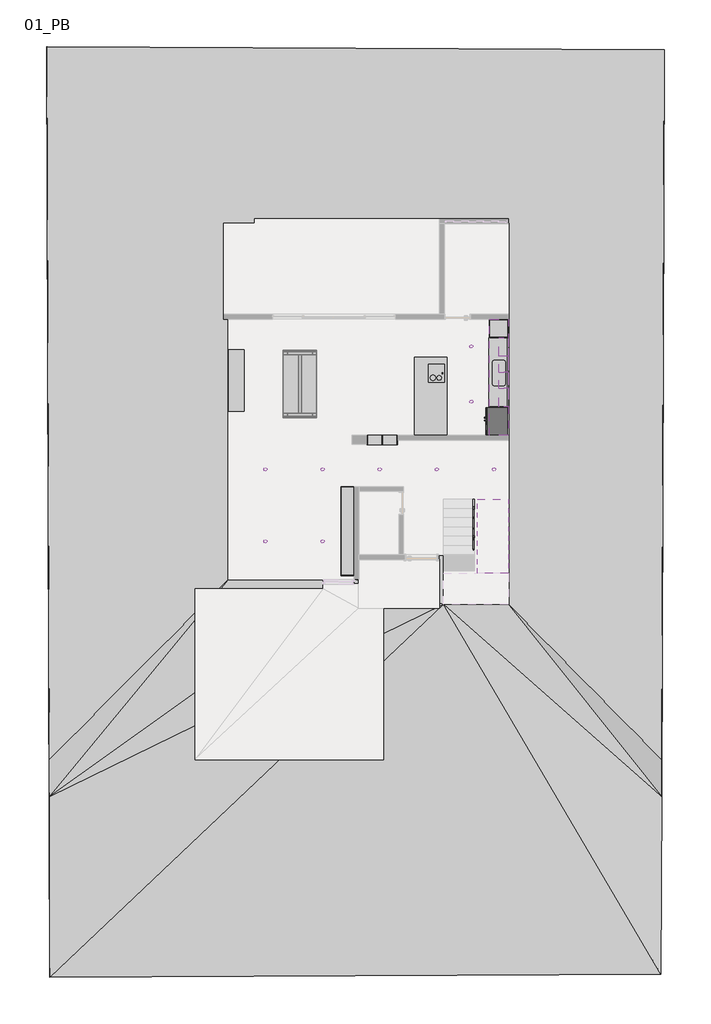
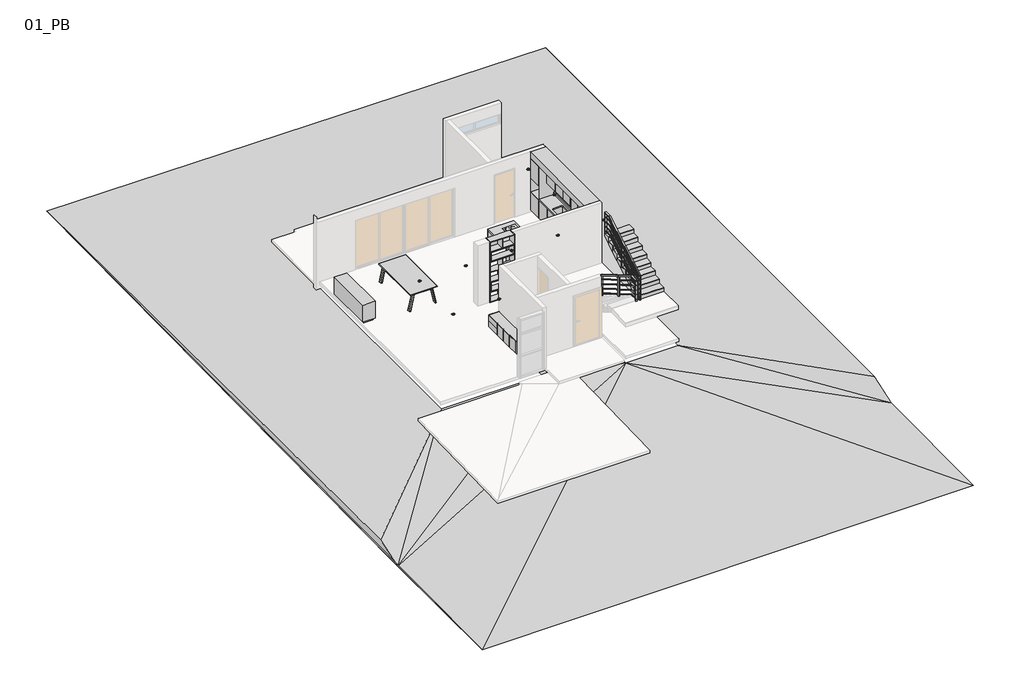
# One storey, part 2 of 2: 16 furniture elements, 9 light fixtures, 3 proxies, 1 railing, 1 stair flight.
"""IFC4 building model written with IfcOpenShell, lengths in millimetres."""

from ifc_helpers import new_model, si_unit, frame, origin, place, context, project, spatial, polyline, circle_curve, ellipse_curve, outline, extrude, faceted_brep, triangles, transform, mapped, element, save
from ifc_brep_helpers import plane_surface, cylinder_surface, advanced_brep
from components import specialty_equipment_7a79cb5c, blanco_40978c59, furniture_4d22b9ae, furniture_74854ae5, furniture_a5ee66b8, furniture_1_0d0d19ef, furniture_52_cm_ab3bc9a9, furniture_52_cm_2eac06b0, furniture_60_4b7d7167, furniture_60_2606760a, furniture_60_cm_2a39175a, barra_cocina_2500_105_cm_d31bc55a, base_1_puerta_60_9c87a0a0, base_1m_105_cm_66b4baac, counter_top_w_sink_hole_600mm_depth_3cb56055, enscape_assetdefinition_mesa_mod_comedor_enscape_ff12c231, light_fixture_93f22e3d

model = new_model("IFC4")

# Units and contexts
model_context = context("Model", 3, world=origin())
ifc_project = project(units=[si_unit("LENGTHUNIT", "METRE", prefix="MILLI")], contexts=[model_context])

# Site, building, storey
site = spatial("IfcSite", under=ifc_project)
building = spatial("IfcBuilding", under=site)
storey = spatial("IfcBuildingStorey", under=building, Name="01_PB", Elevation=300.0)

# Proxies
placement = place(None, origin())
element("IfcBuildingElementProxy", 1, Name="Building Element Proxy", at=placement, inside=storey, context=model_context, shape_type="Tessellation", body=[
    triangles([(-1931.077478, 17108.8882507, 0.0), (-1826.3813976, -13159.7618591, -400.0000031), (18057.4152374, -13061.3271698, -400.0000031), (18091.5340851, -7278.0144791, -400.0000031), (18168.3724182, 17010.4535614, 0.0), (3991.5345589, 8241.9852905, 0.0), (10570.8233734, 8241.9852905, 0.0), (11011.534845, 8241.9852905, 0.0), (11011.534845, 8750.618779, 0.0), (11011.534845, 11341.9856049, 0.0), (13091.5346283, 11341.9856049, 0.0), (13091.5346283, 11151.1844604, 0.0), (13091.5346283, -1018.0146784, 0.0), (10991.534903, -1018.0146784, 0.0), (10991.534903, 581.9853702, 0.0), (8071.5346481, 581.9853702, 0.0), (8071.5346481, -218.0146359, 0.0), (3991.5345589, -218.0146359, 0.0), (3991.5345589, 648.7104761, 0.0), (10851.5341461, 8401.985408, 0.0), (10709.4567719, 8401.985408, 0.0), (3981.5345879, 8401.985408, 0.0), (3981.5345879, 11351.9849945, 0.0), (10851.5341461, 11351.9849945, 0.0), (10851.5341461, 8565.9597015, 0.0), (-1836.9207253, -6078.0144699, 0.0), (-1836.9207253, -7278.0144791, -400.0000031), (18091.5340851, -6078.0144699, 0.0)], [[26, 27, 18], [2, 27, 1], [14, 17, 27], [27, 26, 1], [17, 18, 27], [18, 19, 26], [27, 2, 14], [26, 19, 6], [1, 22, 23], [22, 1, 6], [22, 7, 21], [24, 1, 23], [20, 21, 7], [20, 7, 8], [7, 22, 6], [1, 26, 6], [16, 17, 15], [8, 25, 20], [4, 13, 14], [28, 13, 4], [4, 5, 28], [4, 14, 3], [14, 2, 3], [12, 13, 28], [25, 9, 24], [25, 8, 9], [24, 9, 10], [11, 5, 10], [5, 11, 12], [10, 5, 24], [28, 5, 12], [24, 5, 1], [15, 17, 14]], closed=False),
])
specialty_equipment_shape = specialty_equipment_7a79cb5c(model_context)
element("IfcBuildingElementProxy", 2, Name="HAFELE Kitchen Induction Hob Plus+LONGBOTTOM : LONGBOTTOM_538.46.021", ObjectType="HAFELE Kitchen Induction Hob Plus+LONGBOTTOM : LONGBOTTOM_538.46.021", at=placement, inside=storey, context=model_context, shape_type="MappedRepresentation", body=[
    mapped(specialty_equipment_shape, transform((10495.041858, 6484.7195323, 1117.0), x_axis=(0.0, 1.0, 0.0), y_axis=(-1.0, 0.0, 0.0), z_axis=(0.0, 0.0, 1.0))),
])
blanco_shape = blanco_40978c59(model_context)
element("IfcBuildingElementProxy", 3, Name="Frigorífico Side by Side : Blanco", ObjectType="Frigorífico Side by Side : Blanco", at=placement, inside=storey, context=model_context, shape_type="MappedRepresentation", body=[
    mapped(blanco_shape, transform((13071.5346352, 4921.9853574, 300.0), x_axis=(0.0, -1.0, 0.0), y_axis=(1.0, 0.0, 0.0), z_axis=(0.0, 0.0, 1.0))),
])

# Furniture
furniture_shape = furniture_4d22b9ae(model_context)
element("IfcFurniture", 4, ObjectType="Muebles de obra 1 : Muebles de obra 1", at=placement, inside=storey, context=model_context, shape_type="MappedRepresentation", body=[
    mapped(furniture_shape, transform((0.0, 0.0, 0.0), x_axis=(1.0, 0.0, 0.0), y_axis=(0.0, 1.0, 0.0), z_axis=(0.0, 0.0, 1.0))),
])
furniture_2_shape = furniture_74854ae5(model_context)
element("IfcFurniture", 5, ObjectType="MUEBLES FLOTANTE SALA 1 3000 : MUEBLES FLOTANTE SALA 1 3000", at=placement, inside=storey, context=model_context, shape_type="MappedRepresentation", body=[
    mapped(furniture_2_shape, transform((8071.5346352, 1351.9853574, 300.0), x_axis=(0.0, -1.0, 0.0), y_axis=(1.0, 0.0, 0.0), z_axis=(0.0, 0.0, 1.0))),
])
furniture_3_shape = furniture_a5ee66b8(model_context)
element("IfcFurniture", 6, ObjectType="BUFETERA-1 : BUFETERA-50x80x207 cm", at=placement, inside=storey, context=model_context, shape_type="MappedRepresentation", body=[
    mapped(furniture_3_shape, transform((3991.5346352, 6241.9853574, 300.0), x_axis=(0.0, 1.0, 0.0), y_axis=(-1.0, 0.0, 0.0), z_axis=(0.0, 0.0, 1.0))),
])
furniture_1_shape = furniture_1_0d0d19ef(model_context)
element("IfcFurniture", 7, ObjectType="MUEBLE ACCESO 1.00X0.30 : 1", at=placement, inside=storey, context=model_context, shape_type="MappedRepresentation", body=[
    mapped(furniture_1_shape, transform((8946.8343088, 4815.8304592, 300.0), x_axis=(1.0, 0.0, 0.0), y_axis=(0.0, 1.0, 0.0), z_axis=(0.0, 0.0, 1.0))),
])
furniture_52_cm_shape = furniture_52_cm_ab3bc9a9(model_context)
element("IfcFurniture", 8, ObjectType="Mueble superior 1 puertas : 52 CM", at=placement, inside=storey, context=model_context, shape_type="MappedRepresentation", body=[
    mapped(furniture_52_cm_shape, transform((13171.5346352, 6659.4853574, 200.0), x_axis=(0.0, 1.0, 0.0), y_axis=(-1.0, 0.0, 0.0), z_axis=(0.0, 0.0, 1.0))),
])
furniture_52_cm_2_shape = furniture_52_cm_2eac06b0(model_context)
element("IfcFurniture", 9, ObjectType="Mueble superior 1 puertas : 52 CM", at=placement, inside=storey, context=model_context, shape_type="MappedRepresentation", body=[
    mapped(furniture_52_cm_2_shape, transform((13171.5346352, 6382.4853574, 200.0), x_axis=(0.0, -1.0, 0.0), y_axis=(1.0, 0.0, 0.0), z_axis=(0.0, 0.0, 1.0))),
])
furniture_60_shape = furniture_60_4b7d7167(model_context)
element("IfcFurniture", 10, ObjectType="MUEBLE ALTA PARA HORNO : 60", at=placement, inside=storey, context=model_context, shape_type="MappedRepresentation", body=[
    mapped(furniture_60_shape, transform((13091.5346352, 7986.6856839, 300.0), x_axis=(0.0, -1.0, 0.0), y_axis=(1.0, 0.0, 0.0), z_axis=(0.0, 0.0, 1.0))),
])
furniture_60_2_shape = furniture_60_2606760a(model_context)
element("IfcFurniture", 11, ObjectType="MUEBLE LATERAL Y SUP REFRI : 60", at=placement, inside=storey, context=model_context, shape_type="MappedRepresentation", body=[
    mapped(furniture_60_2_shape, transform((13091.5346352, 4971.6856839, 300.0), x_axis=(0.0, -1.0, 0.0), y_axis=(1.0, 0.0, 0.0), z_axis=(0.0, 0.0, 1.0))),
])
furniture_60_cm_shape = furniture_60_cm_2a39175a(model_context)
element("IfcFurniture", 12, ObjectType="Mueble superior 1 puertas : 60 CM", at=placement, inside=storey, context=model_context, shape_type="MappedRepresentation", body=[
    mapped(furniture_60_cm_shape, transform((13171.5346352, 7215.9853574, 200.0), x_axis=(0.0, 1.0, 0.0), y_axis=(-1.0, 0.0, 0.0), z_axis=(0.0, 0.0, 1.0))),
])
element("IfcFurniture", 13, ObjectType="Mueble superior 1 puertas : 60 CM", at=placement, inside=storey, context=model_context, shape_type="MappedRepresentation", body=[
    mapped(furniture_60_cm_shape, transform((13171.5346352, 5567.9853574, 200.0), x_axis=(0.0, 1.0, 0.0), y_axis=(-1.0, 0.0, 0.0), z_axis=(0.0, 0.0, 1.0))),
])
barra_cocina_2500_105_cm_shape = barra_cocina_2500_105_cm_d31bc55a(model_context)
element("IfcFurniture", 14, ObjectType="BARRA COCINA 2500 : 105 CM", at=placement, inside=storey, context=model_context, shape_type="MappedRepresentation", body=[
    mapped(barra_cocina_2500_105_cm_shape, transform((11233.4825254, 5756.6856839, 300.0), x_axis=(0.0, -1.0, 0.0), y_axis=(1.0, 0.0, 0.0), z_axis=(0.0, 0.0, 1.0))),
])
base_1_puerta_60_shape = base_1_puerta_60_9c87a0a0(model_context)
element("IfcFurniture", 15, ObjectType="Base 1 puerta : 60", at=placement, inside=storey, context=model_context, shape_type="MappedRepresentation", body=[
    mapped(base_1_puerta_60_shape, transform((13091.5346352, 7386.6856839, 300.0), x_axis=(0.0, -1.0, 0.0), y_axis=(1.0, 0.0, 0.0), z_axis=(0.0, 0.0, 1.0))),
])
element("IfcFurniture", 16, ObjectType="Base 1 puerta : 60", at=placement, inside=storey, context=model_context, shape_type="MappedRepresentation", body=[
    mapped(base_1_puerta_60_shape, transform((13091.5346352, 5736.6856839, 300.0), x_axis=(0.0, -1.0, 0.0), y_axis=(1.0, 0.0, 0.0), z_axis=(0.0, 0.0, 1.0))),
])
base_1m_105_cm_shape = base_1m_105_cm_66b4baac(model_context)
element("IfcFurniture", 17, ObjectType="Base 1m : 105 CM", at=placement, inside=storey, context=model_context, shape_type="MappedRepresentation", body=[
    mapped(base_1m_105_cm_shape, transform((13091.5346352, 6561.6856839, 300.0), x_axis=(0.0, -1.0, 0.0), y_axis=(1.0, 0.0, 0.0), z_axis=(0.0, 0.0, 1.0))),
])
counter_top_w_sink_hole_600mm_depth_shape = counter_top_w_sink_hole_600mm_depth_3cb56055(model_context)
element("IfcFurniture", 18, ObjectType="Counter Top w Sink Hole : 600mm Depth", at=placement, inside=storey, context=model_context, shape_type="MappedRepresentation", body=[
    mapped(counter_top_w_sink_hole_600mm_depth_shape, transform((13091.5346352, 6441.5230624, 310.0), x_axis=(0.0, -1.0, 0.0), y_axis=(1.0, 0.0, 0.0), z_axis=(0.0, 0.0, 1.0))),
])
enscape_assetdefinition_mesa_mod_comedor_enscape_shape = enscape_assetdefinition_mesa_mod_comedor_enscape_ff12c231(model_context)
element("IfcFurniture", 19, ObjectType="Enscape AssetDefinition - MESA MOD COMEDOR : Enscape AssetDefinition - MESA MOD COMEDOR", at=placement, inside=storey, context=model_context, shape_type="MappedRepresentation", body=[
    mapped(enscape_assetdefinition_mesa_mod_comedor_enscape_shape, transform((5771.5346352, 5081.9853574, 300.0), x_axis=(1.0, 0.0, 0.0), y_axis=(0.0, 1.0, 0.0), z_axis=(0.0, 0.0, 1.0))),
])

# Light fixtures
light_fixture_shape = light_fixture_93f22e3d(model_context)
element("IfcLightFixture", 20, ObjectType="TECNOLINE-LÁMPARA DE INTERIOR-DOWNLIGHT EMPOTRADA : TECNOLINE-LÁMPARA DE INTERIOR-DOWNLIGHT EMPOTRADA", at=placement, inside=storey, context=model_context, shape_type="MappedRepresentation", body=[
    mapped(light_fixture_shape, transform((7051.5346352, 1021.9853574, 2870.0), x_axis=(1.0, 0.0, 0.0), y_axis=(0.0, -1.0, 0.0), z_axis=(0.0, 0.0, -1.0))),
])
element("IfcLightFixture", 21, ObjectType="TECNOLINE-LÁMPARA DE INTERIOR-DOWNLIGHT EMPOTRADA : TECNOLINE-LÁMPARA DE INTERIOR-DOWNLIGHT EMPOTRADA", at=placement, inside=storey, context=model_context, shape_type="MappedRepresentation", body=[
    mapped(light_fixture_shape, transform((5191.5346352, 1021.9853574, 2870.0), x_axis=(1.0, 0.0, 0.0), y_axis=(0.0, -1.0, 0.0), z_axis=(0.0, 0.0, -1.0))),
])
element("IfcLightFixture", 22, ObjectType="TECNOLINE-LÁMPARA DE INTERIOR-DOWNLIGHT EMPOTRADA : TECNOLINE-LÁMPARA DE INTERIOR-DOWNLIGHT EMPOTRADA", at=placement, inside=storey, context=model_context, shape_type="MappedRepresentation", body=[
    mapped(light_fixture_shape, transform((7051.5346352, 3361.9853574, 2870.0), x_axis=(1.0, 0.0, 0.0), y_axis=(0.0, -1.0, 0.0), z_axis=(0.0, 0.0, -1.0))),
])
element("IfcLightFixture", 23, ObjectType="TECNOLINE-LÁMPARA DE INTERIOR-DOWNLIGHT EMPOTRADA : TECNOLINE-LÁMPARA DE INTERIOR-DOWNLIGHT EMPOTRADA", at=placement, inside=storey, context=model_context, shape_type="MappedRepresentation", body=[
    mapped(light_fixture_shape, transform((5191.5346352, 3361.9853574, 2870.0), x_axis=(1.0, 0.0, 0.0), y_axis=(0.0, -1.0, 0.0), z_axis=(0.0, 0.0, -1.0))),
])
element("IfcLightFixture", 24, ObjectType="TECNOLINE-LÁMPARA DE INTERIOR-DOWNLIGHT EMPOTRADA : TECNOLINE-LÁMPARA DE INTERIOR-DOWNLIGHT EMPOTRADA", at=placement, inside=storey, context=model_context, shape_type="MappedRepresentation", body=[
    mapped(light_fixture_shape, transform((8911.5346352, 3361.9853574, 2870.0), x_axis=(1.0, 0.0, 0.0), y_axis=(0.0, -1.0, 0.0), z_axis=(0.0, 0.0, -1.0))),
])
element("IfcLightFixture", 25, ObjectType="TECNOLINE-LÁMPARA DE INTERIOR-DOWNLIGHT EMPOTRADA : TECNOLINE-LÁMPARA DE INTERIOR-DOWNLIGHT EMPOTRADA", at=placement, inside=storey, context=model_context, shape_type="MappedRepresentation", body=[
    mapped(light_fixture_shape, transform((10771.5346352, 3361.9853574, 2870.0), x_axis=(1.0, 0.0, 0.0), y_axis=(0.0, -1.0, 0.0), z_axis=(0.0, 0.0, -1.0))),
])
element("IfcLightFixture", 26, ObjectType="TECNOLINE-LÁMPARA DE INTERIOR-DOWNLIGHT EMPOTRADA : TECNOLINE-LÁMPARA DE INTERIOR-DOWNLIGHT EMPOTRADA", at=placement, inside=storey, context=model_context, shape_type="MappedRepresentation", body=[
    mapped(light_fixture_shape, transform((12631.5346352, 3361.9853574, 2870.0), x_axis=(1.0, 0.0, 0.0), y_axis=(0.0, -1.0, 0.0), z_axis=(0.0, 0.0, -1.0))),
])
element("IfcLightFixture", 27, ObjectType="TECNOLINE-LÁMPARA DE INTERIOR-DOWNLIGHT EMPOTRADA : TECNOLINE-LÁMPARA DE INTERIOR-DOWNLIGHT EMPOTRADA", at=placement, inside=storey, context=model_context, shape_type="MappedRepresentation", body=[
    mapped(light_fixture_shape, transform((11891.5346352, 7361.9853574, 2870.0), x_axis=(1.0, 0.0, 0.0), y_axis=(0.0, -1.0, 0.0), z_axis=(0.0, 0.0, -1.0))),
])
element("IfcLightFixture", 28, ObjectType="TECNOLINE-LÁMPARA DE INTERIOR-DOWNLIGHT EMPOTRADA : TECNOLINE-LÁMPARA DE INTERIOR-DOWNLIGHT EMPOTRADA", at=placement, inside=storey, context=model_context, shape_type="MappedRepresentation", body=[
    mapped(light_fixture_shape, transform((11891.5346352, 5561.9853574, 2870.0), x_axis=(1.0, 0.0, 0.0), y_axis=(0.0, -1.0, 0.0), z_axis=(0.0, 0.0, -1.0))),
])

# Railing
element("IfcRailing", 29, ObjectType="Porte perfil cuadrado y tubería 90 cm altura", at=placement, inside=storey, context=model_context, shape_type="SolidModel", body=[
    faceted_brep([(11991.1346352, 2381.9853574, 1375.0), (11991.1346352, 2381.9853574, 1317.1148167), (11941.1346352, 2381.9853574, 1317.1148167), (11941.1346352, 2381.9853574, 1375.0), (11991.1346352, 281.9853574, 2600.0), (11991.1346352, 268.4679004, 2550.0), (11941.1346352, 268.4679004, 2550.0), (11941.1346352, 281.9853574, 2600.0), (11991.1346352, -18.4146426, 2600.0), (11991.1346352, -18.4146426, 2550.0), (11941.1346352, -68.4146426, 2550.0), (11941.1346352, -68.4146426, 2600.0), (12091.9346352, -18.4146426, 2600.0), (12091.9346352, -68.4146426, 2600.0), (12141.9346352, -68.4146426, 2550.0), (12141.9346352, -18.4146426, 2550.0)], [[[0, 1, 2, 3]], [[1, 0, 4, 5]], [[2, 1, 5, 6]], [[3, 2, 6, 7]], [[0, 3, 7, 4]], [[5, 4, 8, 9]], [[6, 5, 9, 10]], [[7, 6, 10, 11]], [[4, 7, 11, 8]], [[12, 13, 14, 15]], [[9, 8, 12, 15]], [[10, 9, 15, 14]], [[11, 10, 14, 13]], [[8, 11, 13, 12]]]),
    faceted_brep([(12091.9346352, -18.4146426, 2600.0), (12141.9346352, -18.4146426, 2550.0), (12141.9346352, -68.4146426, 2550.0), (12091.9346352, -68.4146426, 2600.0), (12091.9346352, -18.4146426, 2716.8814834), (12091.9346352, -68.4146426, 2745.6), (12141.9346352, -68.4146426, 2745.6), (12141.9346352, -18.4146426, 2716.8814834)], [[[0, 1, 2, 3]], [[4, 5, 6, 7]], [[1, 0, 4, 7]], [[2, 1, 7, 6]], [[3, 2, 6, 5]], [[0, 3, 5, 4]]]),
    faceted_brep([(12091.9346352, -68.4146426, 2745.6), (12091.9346352, -18.4146426, 2716.8814834), (12141.9346352, -18.4146426, 2716.8814834), (12141.9346352, -68.4146426, 2745.6), (12091.9346352, 2081.9853574, 4000.0), (12091.9346352, 2095.5028145, 3950.0), (12141.9346352, 2095.5028145, 3950.0), (12141.9346352, 2081.9853574, 4000.0), (12091.9346352, 2366.9853574, 4000.0), (12141.9346352, 2366.9853574, 4000.0), (12141.9346352, 2366.9853574, 3950.0), (12091.9346352, 2366.9853574, 3950.0)], [[[0, 1, 2, 3]], [[1, 0, 4, 5]], [[2, 1, 5, 6]], [[3, 2, 6, 7]], [[0, 3, 7, 4]], [[8, 9, 10, 11]], [[5, 4, 8, 11]], [[6, 5, 11, 10]], [[7, 6, 10, 9]], [[4, 7, 9, 8]]]),
    advanced_brep(
    [(11951.1346352, 2381.9853574, 1157.634445), (11981.1346352, 2381.9853574, 1157.634445), (11951.1346352, 277.9301203, 2385.0), (11981.1346352, 277.9301203, 2385.0), (11951.1346352, -28.4146426, 2385.0), (11981.1346352, -28.4146426, 2385.0)],
    [
        (0, 1, ellipse_curve(frame((11966.1346352, 2381.9853574, 1157.634445), z_axis=(0.0, 1.0, 0.0), x_axis=(0.0, 0.0, -1.0)), 17.365555, 15.0)),
        (1, 0, ellipse_curve(frame((11966.1346352, 2381.9853574, 1157.634445), z_axis=(0.0, 1.0, 0.0), x_axis=(0.0, 0.0, -1.0)), 17.365555, 15.0)),
        (0, 2),
        (2, 3, ellipse_curve(frame((11966.1346352, 277.9301203, 2385.0), z_axis=(0.0, 0.9653442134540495, -0.260979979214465), x_axis=(0.0, -0.26097997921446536, -0.9653442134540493)), 15.5384989, 15.0)),
        (3, 1),
        (3, 2, ellipse_curve(frame((11966.1346352, 277.9301203, 2385.0), z_axis=(0.0, 0.9653442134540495, -0.260979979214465), x_axis=(0.0, -0.26097997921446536, -0.9653442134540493)), 15.5384989, 15.0)),
        (4, 5, circle_curve(frame((11966.1346352, -28.4146426, 2385.0), z_axis=(0.0, -1.0, 0.0), x_axis=(1.0, 0.0, 0.0)), 15.0)),
        (5, 4, circle_curve(frame((11966.1346352, -28.4146426, 2385.0), z_axis=(0.0, -1.0, 0.0), x_axis=(1.0, 0.0, 0.0)), 15.0)),
        (2, 4),
        (5, 3),
    ],
    [
        plane_surface(frame((11966.1346352, 2381.9853574, 1175.0), z_axis=(0.0, 1.0, 0.0), x_axis=(0.0, 0.0, -1.0))),
        cylinder_surface(frame((11966.1346352, 2374.4272921, 1162.0433165), z_axis=(0.0, 0.8637789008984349, -0.5038710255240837), x_axis=(1.0, 0.0, 0.0)), 15.0),
        plane_surface(frame((11966.1346352, -28.4146426, 2400.0), z_axis=(0.0, -1.0, 0.0), x_axis=(0.0, 0.0, -1.0))),
        cylinder_surface(frame((11966.1346352, 281.9853574, 2385.0), z_axis=(0.0, 1.0, 0.0), x_axis=(1.0, 0.0, 0.0)), 15.0),
    ],
    [
        (0, [[1, 2]]),
        (1, [[-1, 3, 4, 5]]),
        (1, [[-2, -5, 6, -3]]),
        (2, [[7, 8]]),
        (3, [[-4, 9, -8, 10]]),
        (3, [[-6, -10, -7, -9]]),
    ],
),
    advanced_brep(
    [(11951.1346352, -58.4146426, 2385.0), (11951.1346352, -28.4146426, 2385.0), (12101.9346352, -58.4146426, 2385.0), (12101.9346352, -28.4146426, 2385.0)],
    [
        (0, 1, circle_curve(frame((11951.1346352, -43.4146426, 2385.0), z_axis=(-1.0, 0.0, 0.0), x_axis=(0.0, 1.0, 0.0)), 15.0)),
        (1, 0, circle_curve(frame((11951.1346352, -43.4146426, 2385.0), z_axis=(-1.0, 0.0, 0.0), x_axis=(0.0, 1.0, 0.0)), 15.0)),
        (2, 3, circle_curve(frame((12101.9346352, -43.4146426, 2385.0), z_axis=(1.0, 0.0, 0.0), x_axis=(0.0, 1.0, 0.0)), 15.0)),
        (3, 2, circle_curve(frame((12101.9346352, -43.4146426, 2385.0), z_axis=(1.0, 0.0, 0.0), x_axis=(0.0, 1.0, 0.0)), 15.0)),
        (0, 2),
        (3, 1),
    ],
    [
        plane_surface(frame((11951.1346352, -43.4146426, 2400.0), z_axis=(-1.0, 0.0, 0.0), x_axis=(0.0, 1.0, 0.0))),
        plane_surface(frame((12101.9346352, -43.4146426, 2400.0), z_axis=(1.0, 0.0, 0.0), x_axis=(0.0, 1.0, 0.0))),
        cylinder_surface(frame((11951.1346352, -43.4146426, 2385.0), z_axis=(-1.0, 0.0, 0.0), x_axis=(0.0, 1.0, 0.0)), 15.0),
    ],
    [
        (0, [[1, 2]]),
        (1, [[3, 4]]),
        (2, [[-1, 5, -4, 6]]),
        (2, [[-2, -6, -3, -5]]),
    ],
),
    advanced_brep(
    [(12131.9346352, -58.4146426, 2534.0677783), (12101.9346352, -58.4146426, 2534.0677783), (12131.9346352, 2086.0405946, 3785.0), (12101.9346352, 2086.0405946, 3785.0), (12131.9346352, 2366.9853574, 3785.0), (12101.9346352, 2366.9853574, 3785.0)],
    [
        (0, 1, ellipse_curve(frame((12116.9346352, -58.4146426, 2534.0677783), z_axis=(0.0, -1.0, 0.0), x_axis=(0.0, 0.0, -1.0)), 17.365555, 15.0)),
        (1, 0, ellipse_curve(frame((12116.9346352, -58.4146426, 2534.0677783), z_axis=(0.0, -1.0, 0.0), x_axis=(0.0, 0.0, -1.0)), 17.365555, 15.0)),
        (0, 2),
        (2, 3, ellipse_curve(frame((12116.9346352, 2086.0405946, 3785.0), z_axis=(0.0, -0.9653442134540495, -0.260979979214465), x_axis=(0.0, 0.26097997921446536, -0.9653442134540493)), 15.5384989, 15.0)),
        (3, 1),
        (3, 2, ellipse_curve(frame((12116.9346352, 2086.0405946, 3785.0), z_axis=(0.0, -0.9653442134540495, -0.260979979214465), x_axis=(0.0, 0.26097997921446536, -0.9653442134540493)), 15.5384989, 15.0)),
        (4, 5, circle_curve(frame((12116.9346352, 2366.9853574, 3785.0), z_axis=(0.0, 1.0, 0.0), x_axis=(-1.0, 0.0, 0.0)), 15.0)),
        (5, 4, circle_curve(frame((12116.9346352, 2366.9853574, 3785.0), z_axis=(0.0, 1.0, 0.0), x_axis=(-1.0, 0.0, 0.0)), 15.0)),
        (2, 4),
        (5, 3),
    ],
    [
        plane_surface(frame((12116.9346352, -58.4146426, 2551.4333333), z_axis=(0.0, -1.0, 0.0), x_axis=(0.0, 0.0, 1.0))),
        cylinder_surface(frame((12116.9346352, -50.8565772, 2538.4766498), z_axis=(0.0, -0.8637789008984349, -0.5038710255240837), x_axis=(-1.0, 0.0, 0.0)), 15.0),
        plane_surface(frame((12116.9346352, 2366.9853574, 3800.0), z_axis=(0.0, 1.0, 0.0), x_axis=(0.0, 0.0, 1.0))),
        cylinder_surface(frame((12116.9346352, 2081.9853574, 3785.0), z_axis=(0.0, -1.0, 0.0), x_axis=(-1.0, 0.0, 0.0)), 15.0),
    ],
    [
        (0, [[1, 2]]),
        (1, [[-1, 3, 4, 5]]),
        (1, [[-2, -5, 6, -3]]),
        (2, [[7, 8]]),
        (3, [[-4, 9, -8, 10]]),
        (3, [[-6, -10, -7, -9]]),
    ],
),
    advanced_brep(
    [(11951.1346352, 2381.9853574, 957.634445), (11981.1346352, 2381.9853574, 957.634445), (11951.1346352, 277.9301203, 2185.0), (11981.1346352, 277.9301203, 2185.0), (11951.1346352, -28.4146426, 2185.0), (11981.1346352, -28.4146426, 2185.0)],
    [
        (0, 1, ellipse_curve(frame((11966.1346352, 2381.9853574, 957.634445), z_axis=(0.0, 1.0, 0.0), x_axis=(0.0, 0.0, -1.0)), 17.365555, 15.0)),
        (1, 0, ellipse_curve(frame((11966.1346352, 2381.9853574, 957.634445), z_axis=(0.0, 1.0, 0.0), x_axis=(0.0, 0.0, -1.0)), 17.365555, 15.0)),
        (0, 2),
        (2, 3, ellipse_curve(frame((11966.1346352, 277.9301203, 2185.0), z_axis=(0.0, 0.9653442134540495, -0.260979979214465), x_axis=(0.0, -0.26097997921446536, -0.9653442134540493)), 15.5384989, 15.0)),
        (3, 1),
        (3, 2, ellipse_curve(frame((11966.1346352, 277.9301203, 2185.0), z_axis=(0.0, 0.9653442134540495, -0.260979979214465), x_axis=(0.0, -0.26097997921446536, -0.9653442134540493)), 15.5384989, 15.0)),
        (4, 5, circle_curve(frame((11966.1346352, -28.4146426, 2185.0), z_axis=(0.0, -1.0, 0.0), x_axis=(1.0, 0.0, 0.0)), 15.0)),
        (5, 4, circle_curve(frame((11966.1346352, -28.4146426, 2185.0), z_axis=(0.0, -1.0, 0.0), x_axis=(1.0, 0.0, 0.0)), 15.0)),
        (2, 4),
        (5, 3),
    ],
    [
        plane_surface(frame((11966.1346352, 2381.9853574, 975.0), z_axis=(0.0, 1.0, 0.0), x_axis=(0.0, 0.0, -1.0))),
        cylinder_surface(frame((11966.1346352, 2374.4272921, 962.0433165), z_axis=(0.0, 0.8637789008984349, -0.5038710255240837), x_axis=(1.0, 0.0, 0.0)), 15.0),
        plane_surface(frame((11966.1346352, -28.4146426, 2200.0), z_axis=(0.0, -1.0, 0.0), x_axis=(0.0, 0.0, -1.0))),
        cylinder_surface(frame((11966.1346352, 281.9853574, 2185.0), z_axis=(0.0, 1.0, 0.0), x_axis=(1.0, 0.0, 0.0)), 15.0),
    ],
    [
        (0, [[1, 2]]),
        (1, [[-1, 3, 4, 5]]),
        (1, [[-2, -5, 6, -3]]),
        (2, [[7, 8]]),
        (3, [[-4, 9, -8, 10]]),
        (3, [[-6, -10, -7, -9]]),
    ],
),
    advanced_brep(
    [(11951.1346352, -58.4146426, 2185.0), (11951.1346352, -28.4146426, 2185.0), (12101.9346352, -58.4146426, 2185.0), (12101.9346352, -28.4146426, 2185.0)],
    [
        (0, 1, circle_curve(frame((11951.1346352, -43.4146426, 2185.0), z_axis=(-1.0, 0.0, 0.0), x_axis=(0.0, 1.0, 0.0)), 15.0)),
        (1, 0, circle_curve(frame((11951.1346352, -43.4146426, 2185.0), z_axis=(-1.0, 0.0, 0.0), x_axis=(0.0, 1.0, 0.0)), 15.0)),
        (2, 3, circle_curve(frame((12101.9346352, -43.4146426, 2185.0), z_axis=(1.0, 0.0, 0.0), x_axis=(0.0, 1.0, 0.0)), 15.0)),
        (3, 2, circle_curve(frame((12101.9346352, -43.4146426, 2185.0), z_axis=(1.0, 0.0, 0.0), x_axis=(0.0, 1.0, 0.0)), 15.0)),
        (0, 2),
        (3, 1),
    ],
    [
        plane_surface(frame((11951.1346352, -43.4146426, 2200.0), z_axis=(-1.0, 0.0, 0.0), x_axis=(0.0, 1.0, 0.0))),
        plane_surface(frame((12101.9346352, -43.4146426, 2200.0), z_axis=(1.0, 0.0, 0.0), x_axis=(0.0, 1.0, 0.0))),
        cylinder_surface(frame((11951.1346352, -43.4146426, 2185.0), z_axis=(-1.0, 0.0, 0.0), x_axis=(0.0, 1.0, 0.0)), 15.0),
    ],
    [
        (0, [[1, 2]]),
        (1, [[3, 4]]),
        (2, [[-1, 5, -4, 6]]),
        (2, [[-2, -6, -3, -5]]),
    ],
),
    advanced_brep(
    [(12131.9346352, -58.4146426, 2334.0677783), (12101.9346352, -58.4146426, 2334.0677783), (12131.9346352, 2086.0405946, 3585.0), (12101.9346352, 2086.0405946, 3585.0), (12131.9346352, 2366.9853574, 3585.0), (12101.9346352, 2366.9853574, 3585.0)],
    [
        (0, 1, ellipse_curve(frame((12116.9346352, -58.4146426, 2334.0677783), z_axis=(0.0, -1.0, 0.0), x_axis=(0.0, 0.0, -1.0)), 17.365555, 15.0)),
        (1, 0, ellipse_curve(frame((12116.9346352, -58.4146426, 2334.0677783), z_axis=(0.0, -1.0, 0.0), x_axis=(0.0, 0.0, -1.0)), 17.365555, 15.0)),
        (0, 2),
        (2, 3, ellipse_curve(frame((12116.9346352, 2086.0405946, 3585.0), z_axis=(0.0, -0.9653442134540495, -0.260979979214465), x_axis=(0.0, 0.26097997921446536, -0.9653442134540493)), 15.5384989, 15.0)),
        (3, 1),
        (3, 2, ellipse_curve(frame((12116.9346352, 2086.0405946, 3585.0), z_axis=(0.0, -0.9653442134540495, -0.260979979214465), x_axis=(0.0, 0.26097997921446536, -0.9653442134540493)), 15.5384989, 15.0)),
        (4, 5, circle_curve(frame((12116.9346352, 2366.9853574, 3585.0), z_axis=(0.0, 1.0, 0.0), x_axis=(-1.0, 0.0, 0.0)), 15.0)),
        (5, 4, circle_curve(frame((12116.9346352, 2366.9853574, 3585.0), z_axis=(0.0, 1.0, 0.0), x_axis=(-1.0, 0.0, 0.0)), 15.0)),
        (2, 4),
        (5, 3),
    ],
    [
        plane_surface(frame((12116.9346352, -58.4146426, 2351.4333333), z_axis=(0.0, -1.0, 0.0), x_axis=(0.0, 0.0, 1.0))),
        cylinder_surface(frame((12116.9346352, -50.8565772, 2338.4766498), z_axis=(0.0, -0.8637789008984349, -0.5038710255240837), x_axis=(-1.0, 0.0, 0.0)), 15.0),
        plane_surface(frame((12116.9346352, 2366.9853574, 3600.0), z_axis=(0.0, 1.0, 0.0), x_axis=(0.0, 0.0, 1.0))),
        cylinder_surface(frame((12116.9346352, 2081.9853574, 3585.0), z_axis=(0.0, -1.0, 0.0), x_axis=(-1.0, 0.0, 0.0)), 15.0),
    ],
    [
        (0, [[1, 2]]),
        (1, [[-1, 3, 4, 5]]),
        (1, [[-2, -5, 6, -3]]),
        (2, [[7, 8]]),
        (3, [[-4, 9, -8, 10]]),
        (3, [[-6, -10, -7, -9]]),
    ],
),
    advanced_brep(
    [(11951.1346352, 2381.9853574, 757.634445), (11981.1346352, 2381.9853574, 757.634445), (11951.1346352, 277.9301203, 1985.0), (11981.1346352, 277.9301203, 1985.0), (11951.1346352, -28.4146426, 1985.0), (11981.1346352, -28.4146426, 1985.0)],
    [
        (0, 1, ellipse_curve(frame((11966.1346352, 2381.9853574, 757.634445), z_axis=(0.0, 1.0, 0.0), x_axis=(0.0, 0.0, -1.0)), 17.365555, 15.0)),
        (1, 0, ellipse_curve(frame((11966.1346352, 2381.9853574, 757.634445), z_axis=(0.0, 1.0, 0.0), x_axis=(0.0, 0.0, -1.0)), 17.365555, 15.0)),
        (0, 2),
        (2, 3, ellipse_curve(frame((11966.1346352, 277.9301203, 1985.0), z_axis=(0.0, 0.9653442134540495, -0.260979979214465), x_axis=(0.0, -0.26097997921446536, -0.9653442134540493)), 15.5384989, 15.0)),
        (3, 1),
        (3, 2, ellipse_curve(frame((11966.1346352, 277.9301203, 1985.0), z_axis=(0.0, 0.9653442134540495, -0.260979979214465), x_axis=(0.0, -0.26097997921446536, -0.9653442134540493)), 15.5384989, 15.0)),
        (4, 5, circle_curve(frame((11966.1346352, -28.4146426, 1985.0), z_axis=(0.0, -1.0, 0.0), x_axis=(1.0, 0.0, 0.0)), 15.0)),
        (5, 4, circle_curve(frame((11966.1346352, -28.4146426, 1985.0), z_axis=(0.0, -1.0, 0.0), x_axis=(1.0, 0.0, 0.0)), 15.0)),
        (2, 4),
        (5, 3),
    ],
    [
        plane_surface(frame((11966.1346352, 2381.9853574, 775.0), z_axis=(0.0, 1.0, 0.0), x_axis=(0.0, 0.0, -1.0))),
        cylinder_surface(frame((11966.1346352, 2374.4272921, 762.0433165), z_axis=(0.0, 0.8637789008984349, -0.5038710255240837), x_axis=(1.0, 0.0, 0.0)), 15.0),
        plane_surface(frame((11966.1346352, -28.4146426, 2000.0), z_axis=(0.0, -1.0, 0.0), x_axis=(0.0, 0.0, -1.0))),
        cylinder_surface(frame((11966.1346352, 281.9853574, 1985.0), z_axis=(0.0, 1.0, 0.0), x_axis=(1.0, 0.0, 0.0)), 15.0),
    ],
    [
        (0, [[1, 2]]),
        (1, [[-1, 3, 4, 5]]),
        (1, [[-2, -5, 6, -3]]),
        (2, [[7, 8]]),
        (3, [[-4, 9, -8, 10]]),
        (3, [[-6, -10, -7, -9]]),
    ],
),
    advanced_brep(
    [(11951.1346352, -58.4146426, 1985.0), (11951.1346352, -28.4146426, 1985.0), (12101.9346352, -58.4146426, 1985.0), (12101.9346352, -28.4146426, 1985.0)],
    [
        (0, 1, circle_curve(frame((11951.1346352, -43.4146426, 1985.0), z_axis=(-1.0, 0.0, 0.0), x_axis=(0.0, 1.0, 0.0)), 15.0)),
        (1, 0, circle_curve(frame((11951.1346352, -43.4146426, 1985.0), z_axis=(-1.0, 0.0, 0.0), x_axis=(0.0, 1.0, 0.0)), 15.0)),
        (2, 3, circle_curve(frame((12101.9346352, -43.4146426, 1985.0), z_axis=(1.0, 0.0, 0.0), x_axis=(0.0, 1.0, 0.0)), 15.0)),
        (3, 2, circle_curve(frame((12101.9346352, -43.4146426, 1985.0), z_axis=(1.0, 0.0, 0.0), x_axis=(0.0, 1.0, 0.0)), 15.0)),
        (0, 2),
        (3, 1),
    ],
    [
        plane_surface(frame((11951.1346352, -43.4146426, 2000.0), z_axis=(-1.0, 0.0, 0.0), x_axis=(0.0, 1.0, 0.0))),
        plane_surface(frame((12101.9346352, -43.4146426, 2000.0), z_axis=(1.0, 0.0, 0.0), x_axis=(0.0, 1.0, 0.0))),
        cylinder_surface(frame((11951.1346352, -43.4146426, 1985.0), z_axis=(-1.0, 0.0, 0.0), x_axis=(0.0, 1.0, 0.0)), 15.0),
    ],
    [
        (0, [[1, 2]]),
        (1, [[3, 4]]),
        (2, [[-1, 5, -4, 6]]),
        (2, [[-2, -6, -3, -5]]),
    ],
),
    advanced_brep(
    [(12131.9346352, -58.4146426, 2134.0677783), (12101.9346352, -58.4146426, 2134.0677783), (12131.9346352, 2086.0405946, 3385.0), (12101.9346352, 2086.0405946, 3385.0), (12131.9346352, 2366.9853574, 3385.0), (12101.9346352, 2366.9853574, 3385.0)],
    [
        (0, 1, ellipse_curve(frame((12116.9346352, -58.4146426, 2134.0677783), z_axis=(0.0, -1.0, 0.0), x_axis=(0.0, 0.0, -1.0)), 17.365555, 15.0)),
        (1, 0, ellipse_curve(frame((12116.9346352, -58.4146426, 2134.0677783), z_axis=(0.0, -1.0, 0.0), x_axis=(0.0, 0.0, -1.0)), 17.365555, 15.0)),
        (0, 2),
        (2, 3, ellipse_curve(frame((12116.9346352, 2086.0405946, 3385.0), z_axis=(0.0, -0.9653442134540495, -0.260979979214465), x_axis=(0.0, 0.26097997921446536, -0.9653442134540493)), 15.5384989, 15.0)),
        (3, 1),
        (3, 2, ellipse_curve(frame((12116.9346352, 2086.0405946, 3385.0), z_axis=(0.0, -0.9653442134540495, -0.260979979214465), x_axis=(0.0, 0.26097997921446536, -0.9653442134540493)), 15.5384989, 15.0)),
        (4, 5, circle_curve(frame((12116.9346352, 2366.9853574, 3385.0), z_axis=(0.0, 1.0, 0.0), x_axis=(-1.0, 0.0, 0.0)), 15.0)),
        (5, 4, circle_curve(frame((12116.9346352, 2366.9853574, 3385.0), z_axis=(0.0, 1.0, 0.0), x_axis=(-1.0, 0.0, 0.0)), 15.0)),
        (2, 4),
        (5, 3),
    ],
    [
        plane_surface(frame((12116.9346352, -58.4146426, 2151.4333333), z_axis=(0.0, -1.0, 0.0), x_axis=(0.0, 0.0, 1.0))),
        cylinder_surface(frame((12116.9346352, -50.8565772, 2138.4766498), z_axis=(0.0, -0.8637789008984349, -0.5038710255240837), x_axis=(-1.0, 0.0, 0.0)), 15.0),
        plane_surface(frame((12116.9346352, 2366.9853574, 3400.0), z_axis=(0.0, 1.0, 0.0), x_axis=(0.0, 0.0, 1.0))),
        cylinder_surface(frame((12116.9346352, 2081.9853574, 3385.0), z_axis=(0.0, -1.0, 0.0), x_axis=(-1.0, 0.0, 0.0)), 15.0),
    ],
    [
        (0, [[1, 2]]),
        (1, [[-1, 3, 4, 5]]),
        (1, [[-2, -5, 6, -3]]),
        (2, [[7, 8]]),
        (3, [[-4, 9, -8, 10]]),
        (3, [[-6, -10, -7, -9]]),
    ],
),
    advanced_brep(
    [(11951.1346352, 2381.9853574, 557.634445), (11981.1346352, 2381.9853574, 557.634445), (11951.1346352, 277.9301203, 1785.0), (11981.1346352, 277.9301203, 1785.0), (11951.1346352, -28.4146426, 1785.0), (11981.1346352, -28.4146426, 1785.0)],
    [
        (0, 1, ellipse_curve(frame((11966.1346352, 2381.9853574, 557.634445), z_axis=(0.0, 1.0, 0.0), x_axis=(0.0, 0.0, -1.0)), 17.365555, 15.0)),
        (1, 0, ellipse_curve(frame((11966.1346352, 2381.9853574, 557.634445), z_axis=(0.0, 1.0, 0.0), x_axis=(0.0, 0.0, -1.0)), 17.365555, 15.0)),
        (0, 2),
        (2, 3, ellipse_curve(frame((11966.1346352, 277.9301203, 1785.0), z_axis=(0.0, 0.9653442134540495, -0.260979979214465), x_axis=(0.0, -0.26097997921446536, -0.9653442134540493)), 15.5384989, 15.0)),
        (3, 1),
        (3, 2, ellipse_curve(frame((11966.1346352, 277.9301203, 1785.0), z_axis=(0.0, 0.9653442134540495, -0.260979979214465), x_axis=(0.0, -0.26097997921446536, -0.9653442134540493)), 15.5384989, 15.0)),
        (4, 5, circle_curve(frame((11966.1346352, -28.4146426, 1785.0), z_axis=(0.0, -1.0, 0.0), x_axis=(1.0, 0.0, 0.0)), 15.0)),
        (5, 4, circle_curve(frame((11966.1346352, -28.4146426, 1785.0), z_axis=(0.0, -1.0, 0.0), x_axis=(1.0, 0.0, 0.0)), 15.0)),
        (2, 4),
        (5, 3),
    ],
    [
        plane_surface(frame((11966.1346352, 2381.9853574, 575.0), z_axis=(0.0, 1.0, 0.0), x_axis=(0.0, 0.0, -1.0))),
        cylinder_surface(frame((11966.1346352, 2374.4272921, 562.0433165), z_axis=(0.0, 0.8637789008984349, -0.5038710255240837), x_axis=(1.0, 0.0, 0.0)), 15.0),
        plane_surface(frame((11966.1346352, -28.4146426, 1800.0), z_axis=(0.0, -1.0, 0.0), x_axis=(0.0, 0.0, -1.0))),
        cylinder_surface(frame((11966.1346352, 281.9853574, 1785.0), z_axis=(0.0, 1.0, 0.0), x_axis=(1.0, 0.0, 0.0)), 15.0),
    ],
    [
        (0, [[1, 2]]),
        (1, [[-1, 3, 4, 5]]),
        (1, [[-2, -5, 6, -3]]),
        (2, [[7, 8]]),
        (3, [[-4, 9, -8, 10]]),
        (3, [[-6, -10, -7, -9]]),
    ],
),
    advanced_brep(
    [(11951.1346352, -58.4146426, 1785.0), (11951.1346352, -28.4146426, 1785.0), (12101.9346352, -58.4146426, 1785.0), (12101.9346352, -28.4146426, 1785.0)],
    [
        (0, 1, circle_curve(frame((11951.1346352, -43.4146426, 1785.0), z_axis=(-1.0, 0.0, 0.0), x_axis=(0.0, 1.0, 0.0)), 15.0)),
        (1, 0, circle_curve(frame((11951.1346352, -43.4146426, 1785.0), z_axis=(-1.0, 0.0, 0.0), x_axis=(0.0, 1.0, 0.0)), 15.0)),
        (2, 3, circle_curve(frame((12101.9346352, -43.4146426, 1785.0), z_axis=(1.0, 0.0, 0.0), x_axis=(0.0, 1.0, 0.0)), 15.0)),
        (3, 2, circle_curve(frame((12101.9346352, -43.4146426, 1785.0), z_axis=(1.0, 0.0, 0.0), x_axis=(0.0, 1.0, 0.0)), 15.0)),
        (0, 2),
        (3, 1),
    ],
    [
        plane_surface(frame((11951.1346352, -43.4146426, 1800.0), z_axis=(-1.0, 0.0, 0.0), x_axis=(0.0, 1.0, 0.0))),
        plane_surface(frame((12101.9346352, -43.4146426, 1800.0), z_axis=(1.0, 0.0, 0.0), x_axis=(0.0, 1.0, 0.0))),
        cylinder_surface(frame((11951.1346352, -43.4146426, 1785.0), z_axis=(-1.0, 0.0, 0.0), x_axis=(0.0, 1.0, 0.0)), 15.0),
    ],
    [
        (0, [[1, 2]]),
        (1, [[3, 4]]),
        (2, [[-1, 5, -4, 6]]),
        (2, [[-2, -6, -3, -5]]),
    ],
),
    advanced_brep(
    [(12131.9346352, -58.4146426, 1934.0677783), (12101.9346352, -58.4146426, 1934.0677783), (12131.9346352, 2086.0405946, 3185.0), (12101.9346352, 2086.0405946, 3185.0), (12131.9346352, 2366.9853574, 3185.0), (12101.9346352, 2366.9853574, 3185.0)],
    [
        (0, 1, ellipse_curve(frame((12116.9346352, -58.4146426, 1934.0677783), z_axis=(0.0, -1.0, 0.0), x_axis=(0.0, 0.0, -1.0)), 17.365555, 15.0)),
        (1, 0, ellipse_curve(frame((12116.9346352, -58.4146426, 1934.0677783), z_axis=(0.0, -1.0, 0.0), x_axis=(0.0, 0.0, -1.0)), 17.365555, 15.0)),
        (0, 2),
        (2, 3, ellipse_curve(frame((12116.9346352, 2086.0405946, 3185.0), z_axis=(0.0, -0.9653442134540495, -0.260979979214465), x_axis=(0.0, 0.26097997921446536, -0.9653442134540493)), 15.5384989, 15.0)),
        (3, 1),
        (3, 2, ellipse_curve(frame((12116.9346352, 2086.0405946, 3185.0), z_axis=(0.0, -0.9653442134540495, -0.260979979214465), x_axis=(0.0, 0.26097997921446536, -0.9653442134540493)), 15.5384989, 15.0)),
        (4, 5, circle_curve(frame((12116.9346352, 2366.9853574, 3185.0), z_axis=(0.0, 1.0, 0.0), x_axis=(-1.0, 0.0, 0.0)), 15.0)),
        (5, 4, circle_curve(frame((12116.9346352, 2366.9853574, 3185.0), z_axis=(0.0, 1.0, 0.0), x_axis=(-1.0, 0.0, 0.0)), 15.0)),
        (2, 4),
        (5, 3),
    ],
    [
        plane_surface(frame((12116.9346352, -58.4146426, 1951.4333333), z_axis=(0.0, -1.0, 0.0), x_axis=(0.0, 0.0, 1.0))),
        cylinder_surface(frame((12116.9346352, -50.8565772, 1938.4766498), z_axis=(0.0, -0.8637789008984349, -0.5038710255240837), x_axis=(-1.0, 0.0, 0.0)), 15.0),
        plane_surface(frame((12116.9346352, 2366.9853574, 3200.0), z_axis=(0.0, 1.0, 0.0), x_axis=(0.0, 0.0, 1.0))),
        cylinder_surface(frame((12116.9346352, 2081.9853574, 3185.0), z_axis=(0.0, -1.0, 0.0), x_axis=(-1.0, 0.0, 0.0)), 15.0),
    ],
    [
        (0, [[1, 2]]),
        (1, [[-1, 3, 4, 5]]),
        (1, [[-2, -5, 6, -3]]),
        (2, [[7, 8]]),
        (3, [[-4, 9, -8, 10]]),
        (3, [[-6, -10, -7, -9]]),
    ],
),
    extrude(outline(polyline([(1136.3853574, 3390.5148167), (1187.1853574, 3420.14815), (1187.1853574, 2400.0), (1136.3853574, 2400.0), (1136.3853574, 3390.5148167)])), frame((12091.5346352, 0.0, 0.0), z_axis=(1.0, 0.0, 0.0), x_axis=(0.0, 1.0, 0.0)), (0.0, 0.0, 1.0), 50.8),
    extrude(outline(polyline([(1194.6853574, 1175.0), (1143.8853574, 1175.0), (1143.8853574, 2039.22315), (1194.6853574, 2009.5898167), (1194.6853574, 1175.0)])), frame((11940.7346352, 0.0, 0.0), z_axis=(1.0, 0.0, 0.0), x_axis=(0.0, 1.0, 0.0)), (0.0, 0.0, 1.0), 50.8),
    extrude(outline(polyline([(12091.5346352, -18.0146426), (12142.3346352, -18.0146426), (12142.3346352, -68.8146426), (12091.5346352, -68.8146426), (12091.5346352, -18.0146426)])), frame((0.0, 0.0, 1700.0), z_axis=(0.0, 0.0, 1.0), x_axis=(1.0, 0.0, 0.0)), (0.0, 0.0, 1.0), 850.0),
    extrude(outline(polyline([(11991.5346352, -18.0146426), (11991.5346352, -68.8146426), (11940.7346352, -68.8146426), (11940.7346352, -18.0146426), (11991.5346352, -18.0146426)])), frame((0.0, 0.0, 1700.0), z_axis=(0.0, 0.0, 1.0), x_axis=(1.0, 0.0, 0.0)), (0.0, 0.0, 1.0), 850.0),
    extrude(outline(polyline([(12091.5346352, 2329.0853574), (12091.5346352, 2379.8853574), (12142.3346352, 2379.8853574), (12142.3346352, 2329.0853574), (12091.5346352, 2329.0853574)])), frame((0.0, 0.0, 3100.0), z_axis=(0.0, 0.0, 1.0), x_axis=(1.0, 0.0, 0.0)), (0.0, 0.0, 1.0), 850.0),
    extrude(outline(polyline([(2394.8853574, 475.0), (2344.0853574, 475.0), (2344.0853574, 1339.22315), (2394.8853574, 1309.5898167), (2394.8853574, 475.0)])), frame((11940.7346352, 0.0, 0.0), z_axis=(1.0, 0.0, 0.0), x_axis=(0.0, 1.0, 0.0)), (0.0, 0.0, 1.0), 50.8),
])

# Stair flight
element("IfcStairFlight", 30, ObjectType="10 CM TRAMO LISO+ACABADO", at=placement, inside=storey, context=model_context, shape_type="SolidModel", body=[
    faceted_brep([(12091.5346352, 301.9853574, 1855.0), (12091.5346352, 1.9853574, 1855.0), (13091.5346352, 1.9853574, 1855.0), (13091.5346352, 301.9853574, 1855.0), (12091.5346352, 301.9853574, 1739.2296334), (12091.5346352, 1.9853574, 1564.2296334), (12091.5346352, 1.9853574, 1680.0), (13091.5346352, 1.9853574, 1564.2296334), (13091.5346352, 1.9853574, 1680.0), (13091.5346352, 301.9853574, 1739.2296334), (12091.5346352, 601.9853574, 2030.0), (12091.5346352, 301.9853574, 2030.0), (13091.5346352, 301.9853574, 2030.0), (13091.5346352, 601.9853574, 2030.0), (12091.5346352, 601.9853574, 1914.2296334), (13091.5346352, 601.9853574, 1914.2296334), (12091.5346352, 901.9853574, 2205.0), (12091.5346352, 601.9853574, 2205.0), (13091.5346352, 601.9853574, 2205.0), (13091.5346352, 901.9853574, 2205.0), (12091.5346352, 901.9853574, 2089.2296334), (13091.5346352, 901.9853574, 2089.2296334), (12091.5346352, 1201.9853574, 2380.0), (12091.5346352, 901.9853574, 2380.0), (13091.5346352, 901.9853574, 2380.0), (13091.5346352, 1201.9853574, 2380.0), (12091.5346352, 1201.9853574, 2264.2296334), (13091.5346352, 1201.9853574, 2264.2296334), (12091.5346352, 1501.9853574, 2555.0), (12091.5346352, 1201.9853574, 2555.0), (13091.5346352, 1201.9853574, 2555.0), (13091.5346352, 1501.9853574, 2555.0), (12091.5346352, 1501.9853574, 2439.2296334), (13091.5346352, 1501.9853574, 2439.2296334), (12091.5346352, 1801.9853574, 2730.0), (12091.5346352, 1501.9853574, 2730.0), (13091.5346352, 1501.9853574, 2730.0), (13091.5346352, 1801.9853574, 2730.0), (12091.5346352, 1801.9853574, 2614.2296334), (13091.5346352, 1801.9853574, 2614.2296334), (12091.5346352, 2101.9853574, 2905.0), (12091.5346352, 1801.9853574, 2905.0), (13091.5346352, 1801.9853574, 2905.0), (13091.5346352, 2101.9853574, 2905.0), (12091.5346352, 2101.9853574, 2789.2296334), (13091.5346352, 2101.9853574, 2789.2296334), (12091.5346352, 2381.9853574, 3080.0), (12091.5346352, 2101.9853574, 3080.0), (13091.5346352, 2101.9853574, 3080.0), (13091.5346352, 2381.9853574, 3080.0), (12091.5346352, 2381.9853574, 2952.5629668), (13091.5346352, 2381.9853574, 2952.5629668)], [[[0, 1, 2, 3]], [[1, 0, 4, 5, 6]], [[2, 1, 6, 5, 7, 8]], [[3, 2, 8, 7, 9]], [[10, 11, 12, 13]], [[11, 10, 14, 4, 0]], [[12, 11, 0, 3]], [[13, 12, 3, 9, 15]], [[16, 17, 18, 19]], [[17, 16, 20, 14, 10]], [[18, 17, 10, 13]], [[19, 18, 13, 15, 21]], [[22, 23, 24, 25]], [[23, 22, 26, 20, 16]], [[24, 23, 16, 19]], [[25, 24, 19, 21, 27]], [[28, 29, 30, 31]], [[29, 28, 32, 26, 22]], [[30, 29, 22, 25]], [[31, 30, 25, 27, 33]], [[34, 35, 36, 37]], [[35, 34, 38, 32, 28]], [[36, 35, 28, 31]], [[37, 36, 31, 33, 39]], [[40, 41, 42, 43]], [[41, 40, 44, 38, 34]], [[42, 41, 34, 37]], [[43, 42, 37, 39, 45]], [[46, 47, 48, 49]], [[47, 46, 50, 44, 40]], [[48, 47, 40, 43]], [[49, 48, 43, 45, 51]], [[46, 49, 51, 50]], [[5, 4, 14, 20, 26, 32, 38, 44, 50, 51, 45, 39, 33, 27, 21, 15, 9, 7]]]),
    extrude(outline(polyline([(13091.5346352, 1.9853574), (13091.5346352, -18.0146426), (12091.5346352, -18.0146426), (12091.5346352, 1.9853574), (13091.5346352, 1.9853574)])), frame((0.0, 0.0, 1680.0), z_axis=(0.0, 0.0, 1.0), x_axis=(1.0, 0.0, 0.0)), (0.0, 0.0, 1.0), 175.0),
    extrude(outline(polyline([(12091.5346352, 281.9853574), (13091.5346352, 281.9853574), (13091.5346352, -18.0146426), (12091.5346352, -18.0146426), (12091.5346352, 281.9853574)])), frame((0.0, 0.0, 1855.0), z_axis=(0.0, 0.0, 1.0), x_axis=(1.0, 0.0, 0.0)), (0.0, 0.0, 1.0), 20.0),
    extrude(outline(polyline([(13091.5346352, 301.9853574), (13091.5346352, 281.9853574), (12091.5346352, 281.9853574), (12091.5346352, 301.9853574), (13091.5346352, 301.9853574)])), frame((0.0, 0.0, 1855.0), z_axis=(0.0, 0.0, 1.0), x_axis=(1.0, 0.0, 0.0)), (0.0, 0.0, 1.0), 175.0),
    extrude(outline(polyline([(12091.5346352, 581.9853574), (13091.5346352, 581.9853574), (13091.5346352, 281.9853574), (12091.5346352, 281.9853574), (12091.5346352, 581.9853574)])), frame((0.0, 0.0, 2030.0), z_axis=(0.0, 0.0, 1.0), x_axis=(1.0, 0.0, 0.0)), (0.0, 0.0, 1.0), 20.0),
    extrude(outline(polyline([(13091.5346352, 601.9853574), (13091.5346352, 581.9853574), (12091.5346352, 581.9853574), (12091.5346352, 601.9853574), (13091.5346352, 601.9853574)])), frame((0.0, 0.0, 2030.0), z_axis=(0.0, 0.0, 1.0), x_axis=(1.0, 0.0, 0.0)), (0.0, 0.0, 1.0), 175.0),
    extrude(outline(polyline([(12091.5346352, 881.9853574), (13091.5346352, 881.9853574), (13091.5346352, 581.9853574), (12091.5346352, 581.9853574), (12091.5346352, 881.9853574)])), frame((0.0, 0.0, 2205.0), z_axis=(0.0, 0.0, 1.0), x_axis=(1.0, 0.0, 0.0)), (0.0, 0.0, 1.0), 20.0),
    extrude(outline(polyline([(13091.5346352, 901.9853574), (13091.5346352, 881.9853574), (12091.5346352, 881.9853574), (12091.5346352, 901.9853574), (13091.5346352, 901.9853574)])), frame((0.0, 0.0, 2205.0), z_axis=(0.0, 0.0, 1.0), x_axis=(1.0, 0.0, 0.0)), (0.0, 0.0, 1.0), 175.0),
    extrude(outline(polyline([(12091.5346352, 1181.9853574), (13091.5346352, 1181.9853574), (13091.5346352, 881.9853574), (12091.5346352, 881.9853574), (12091.5346352, 1181.9853574)])), frame((0.0, 0.0, 2380.0), z_axis=(0.0, 0.0, 1.0), x_axis=(1.0, 0.0, 0.0)), (0.0, 0.0, 1.0), 20.0),
    extrude(outline(polyline([(13091.5346352, 1201.9853574), (13091.5346352, 1181.9853574), (12091.5346352, 1181.9853574), (12091.5346352, 1201.9853574), (13091.5346352, 1201.9853574)])), frame((0.0, 0.0, 2380.0), z_axis=(0.0, 0.0, 1.0), x_axis=(1.0, 0.0, 0.0)), (0.0, 0.0, 1.0), 175.0),
    extrude(outline(polyline([(12091.5346352, 1481.9853574), (13091.5346352, 1481.9853574), (13091.5346352, 1181.9853574), (12091.5346352, 1181.9853574), (12091.5346352, 1481.9853574)])), frame((0.0, 0.0, 2555.0), z_axis=(0.0, 0.0, 1.0), x_axis=(1.0, 0.0, 0.0)), (0.0, 0.0, 1.0), 20.0),
    extrude(outline(polyline([(13091.5346352, 1501.9853574), (13091.5346352, 1481.9853574), (12091.5346352, 1481.9853574), (12091.5346352, 1501.9853574), (13091.5346352, 1501.9853574)])), frame((0.0, 0.0, 2555.0), z_axis=(0.0, 0.0, 1.0), x_axis=(1.0, 0.0, 0.0)), (0.0, 0.0, 1.0), 175.0),
    extrude(outline(polyline([(12091.5346352, 1781.9853574), (13091.5346352, 1781.9853574), (13091.5346352, 1481.9853574), (12091.5346352, 1481.9853574), (12091.5346352, 1781.9853574)])), frame((0.0, 0.0, 2730.0), z_axis=(0.0, 0.0, 1.0), x_axis=(1.0, 0.0, 0.0)), (0.0, 0.0, 1.0), 20.0),
    extrude(outline(polyline([(13091.5346352, 1801.9853574), (13091.5346352, 1781.9853574), (12091.5346352, 1781.9853574), (12091.5346352, 1801.9853574), (13091.5346352, 1801.9853574)])), frame((0.0, 0.0, 2730.0), z_axis=(0.0, 0.0, 1.0), x_axis=(1.0, 0.0, 0.0)), (0.0, 0.0, 1.0), 175.0),
    extrude(outline(polyline([(12091.5346352, 2081.9853574), (13091.5346352, 2081.9853574), (13091.5346352, 1781.9853574), (12091.5346352, 1781.9853574), (12091.5346352, 2081.9853574)])), frame((0.0, 0.0, 2905.0), z_axis=(0.0, 0.0, 1.0), x_axis=(1.0, 0.0, 0.0)), (0.0, 0.0, 1.0), 20.0),
    extrude(outline(polyline([(13091.5346352, 2101.9853574), (13091.5346352, 2081.9853574), (12091.5346352, 2081.9853574), (12091.5346352, 2101.9853574), (13091.5346352, 2101.9853574)])), frame((0.0, 0.0, 2905.0), z_axis=(0.0, 0.0, 1.0), x_axis=(1.0, 0.0, 0.0)), (0.0, 0.0, 1.0), 175.0),
    extrude(outline(polyline([(12091.5346352, 2381.9853574), (13091.5346352, 2381.9853574), (13091.5346352, 2081.9853574), (12091.5346352, 2081.9853574), (12091.5346352, 2381.9853574)])), frame((0.0, 0.0, 3080.0), z_axis=(0.0, 0.0, 1.0), x_axis=(1.0, 0.0, 0.0)), (0.0, 0.0, 1.0), 20.0),
])

save(model, "model.ifc")
